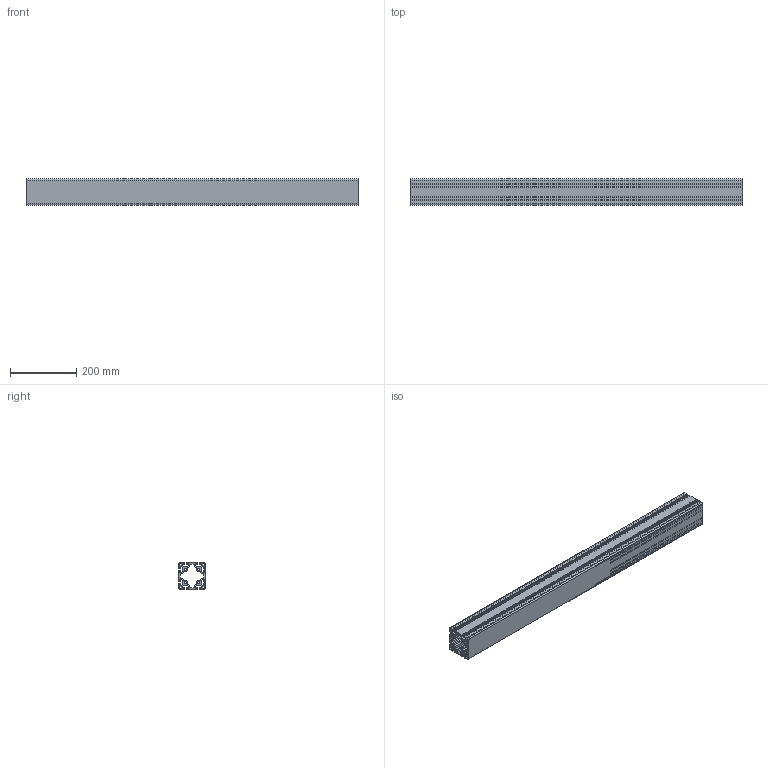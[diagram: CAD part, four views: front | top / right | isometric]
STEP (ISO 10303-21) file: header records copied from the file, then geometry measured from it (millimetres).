
FILE_DESCRIPTION (( 'STEP AP214' ), '1' );
FILE_NAME ('17076_PRO_80x80L_2N.STEP', '2016-05-03T07:50:41', ( '' ), ( '' ), 'SwSTEP 2.0', 'SolidWorks 2015', '' );
FILE_SCHEMA (( 'AUTOMOTIVE_DESIGN' ));
Length unit declared in the file: millimetre
Products named in the file (1): 17076_PRO_80x80L_2N
Bounding box: 1000 x 80 x 80 mm (x, y, z)
Volume: 2031264.3 mm3; surface area: 1148429.5 mm2
Topology: 1 solids, 1 shells, 330 faces, 984 edges, 656 vertices
Faces by surface type: cylinder 172, plane 158
Entity records: 11270 total; most frequent: DIRECTION 1990, CARTESIAN_POINT 1971, ORIENTED_EDGE 1968, EDGE_CURVE 984, AXIS2_PLACEMENT_3D 675, VERTEX_POINT 656, LINE 640, VECTOR 640
